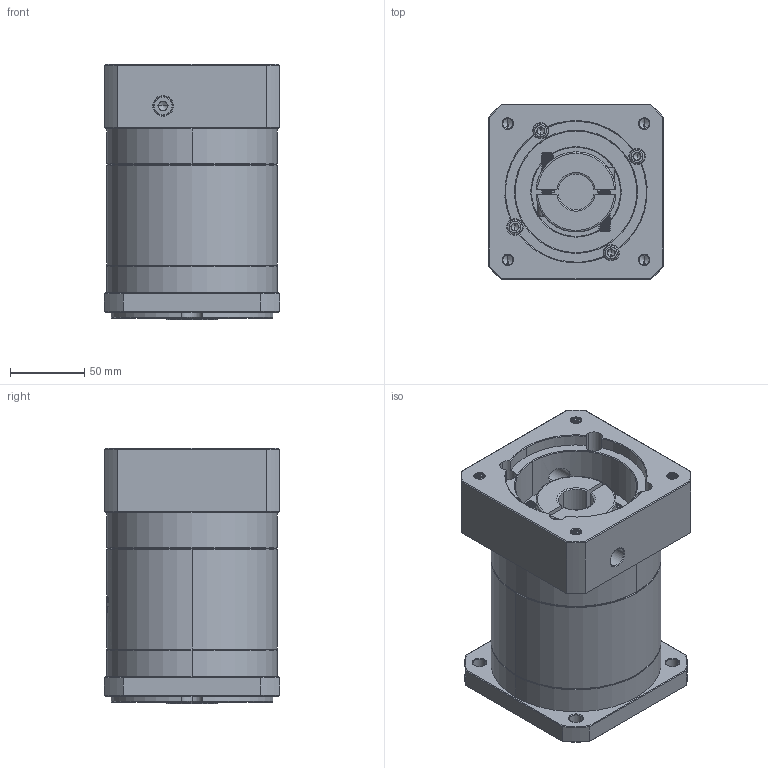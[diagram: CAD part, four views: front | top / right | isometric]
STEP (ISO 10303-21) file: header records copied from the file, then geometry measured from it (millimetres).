
FILE_DESCRIPTION (( 'STEP AP214' ), '1' );
FILE_NAME ('ZF120A-K25-L2-P2-24-95-130-M8.step', '2023-08-27T04:52:13', ( '' ), ( '' ), 'SwSTEP 2.0', 'SolidWorks 2016', '' );
FILE_SCHEMA (( 'AUTOMOTIVE_DESIGN' ));
Length unit declared in the file: millimetre
Products named in the file (1): ZF120A-K25-L2-P2-24-95-130-M8
Bounding box: 118 x 118 x 172 mm (x, y, z)
Volume: 1709031.6 mm3; surface area: 174300 mm2
Topology: 6 solids, 6 shells, 2169 faces, 5773 edges, 3705 vertices
Faces by surface type: plane 1027, bspline 410, cylinder 392, cone 320, torus 20
Entity records: 117706 total; most frequent: CARTESIAN_POINT 45062, ORIENTED_EDGE 11490, DIRECTION 8351, EDGE_CURVE 5745, VERTEX_POINT 3705, VECTOR 3045, LINE 3045, AXIS2_PLACEMENT_3D 2653
